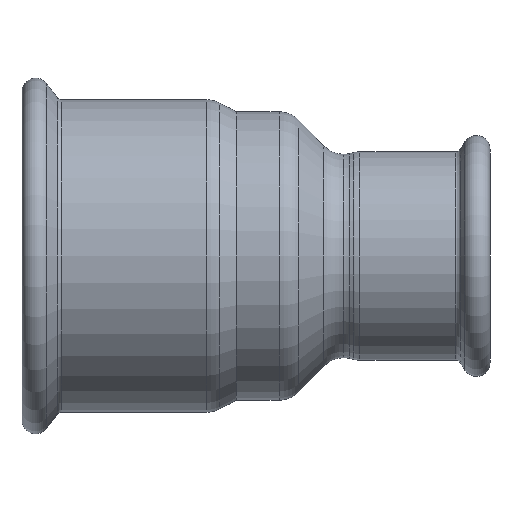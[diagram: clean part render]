
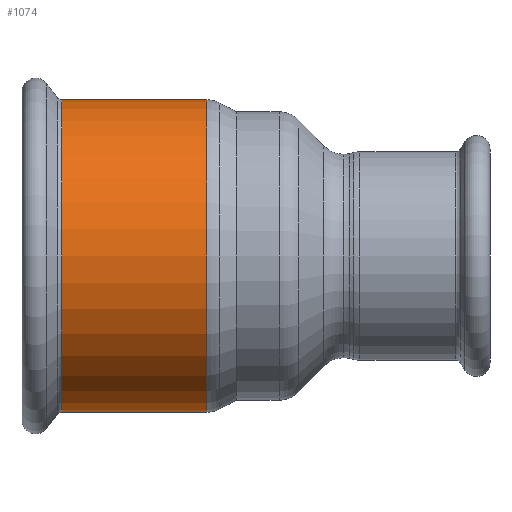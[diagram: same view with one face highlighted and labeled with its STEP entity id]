
A CAD part, front view. The second image highlights one B-rep face of the part: STEP entity #1074.
In plain terms, the highlighted cylindrical face has radius 28.7 mm (diameter 57.4 mm), a partial arc.
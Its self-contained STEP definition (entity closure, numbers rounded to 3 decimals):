
#3 = CARTESIAN_POINT ( 'NONE',  ( -14.512, 0., 28.7 ) ) ;
#93 = CARTESIAN_POINT ( 'NONE',  ( -14.512, 0., 0. ) ) ;
#269 = VERTEX_POINT ( 'NONE', #1376 ) ;
#280 = DIRECTION ( 'NONE',  ( 1., 0., 0. ) ) ;
#549 = LINE ( 'NONE', #1498, #1605 ) ;
#639 = DIRECTION ( 'NONE',  ( -1., 0., 0. ) ) ;
#660 = CIRCLE ( 'NONE', #1887, 28.7 ) ;
#716 = VERTEX_POINT ( 'NONE', #1759 ) ;
#746 = ORIENTED_EDGE ( 'NONE', *, *, #2441, .F. ) ;
#798 = DIRECTION ( 'NONE',  ( -1., 0., 0. ) ) ;
#863 = CARTESIAN_POINT ( 'NONE',  ( -44.93, 0., -28.7 ) ) ;
#937 = CARTESIAN_POINT ( 'NONE',  ( -44.93, 0., 0. ) ) ;
#1074 = ADVANCED_FACE ( 'NONE', ( #2522 ), #3011, .T. ) ;
#1142 = EDGE_CURVE ( 'NONE', #2887, #716, #549, .T. ) ;
#1252 = CARTESIAN_POINT ( 'NONE',  ( -41.188, 0., 0. ) ) ;
#1376 = CARTESIAN_POINT ( 'NONE',  ( -14.512, 0., -28.7 ) ) ;
#1380 = DIRECTION ( 'NONE',  ( 0., 0., 1. ) ) ;
#1406 = DIRECTION ( 'NONE',  ( -1., 0., 0. ) ) ;
#1477 = CARTESIAN_POINT ( 'NONE',  ( -41.188, 0., -28.7 ) ) ;
#1498 = CARTESIAN_POINT ( 'NONE',  ( -44.93, 0., 28.7 ) ) ;
#1502 = CIRCLE ( 'NONE', #2510, 28.7 ) ;
#1605 = VECTOR ( 'NONE', #1406, 1000. ) ;
#1730 = DIRECTION ( 'NONE',  ( 0., 0., -1. ) ) ;
#1759 = CARTESIAN_POINT ( 'NONE',  ( -41.188, 0., 28.7 ) ) ;
#1851 = EDGE_LOOP ( 'NONE', ( #746, #2384, #2438, #2339 ) ) ;
#1887 = AXIS2_PLACEMENT_3D ( 'NONE', #93, #798, #1730 ) ;
#2023 = DIRECTION ( 'NONE',  ( -1., 0., 0. ) ) ;
#2150 = DIRECTION ( 'NONE',  ( 0., 0., 1. ) ) ;
#2153 = EDGE_CURVE ( 'NONE', #716, #2710, #1502, .T. ) ;
#2339 = ORIENTED_EDGE ( 'NONE', *, *, #2153, .T. ) ;
#2384 = ORIENTED_EDGE ( 'NONE', *, *, #2700, .T. ) ;
#2438 = ORIENTED_EDGE ( 'NONE', *, *, #1142, .T. ) ;
#2441 = EDGE_CURVE ( 'NONE', #269, #2710, #2757, .T. ) ;
#2510 = AXIS2_PLACEMENT_3D ( 'NONE', #1252, #280, #2150 ) ;
#2522 = FACE_OUTER_BOUND ( 'NONE', #1851, .T. ) ;
#2700 = EDGE_CURVE ( 'NONE', #269, #2887, #660, .T. ) ;
#2710 = VERTEX_POINT ( 'NONE', #1477 ) ;
#2757 = LINE ( 'NONE', #863, #2911 ) ;
#2887 = VERTEX_POINT ( 'NONE', #3 ) ;
#2911 = VECTOR ( 'NONE', #639, 1000. ) ;
#2993 = AXIS2_PLACEMENT_3D ( 'NONE', #937, #2023, #1380 ) ;
#3011 = CYLINDRICAL_SURFACE ( 'NONE', #2993, 28.7 ) ;
